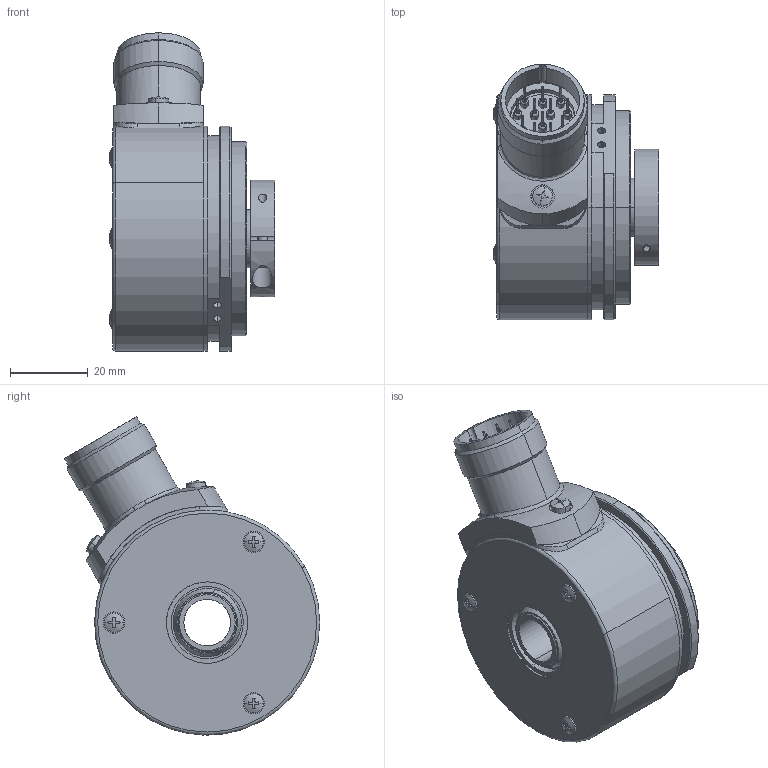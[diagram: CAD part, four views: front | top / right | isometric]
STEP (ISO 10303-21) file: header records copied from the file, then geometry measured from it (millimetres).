
FILE_DESCRIPTION (( 'STEP AP203' ), '1' );
FILE_NAME ('8.5824.18X2.XXXX.STEP', '2012-08-27T11:30:06', ( 'LauferA' ), ( 'Microsoft' ), 'SwSTEP 2.0', 'SolidWorks 2012', '' );
FILE_SCHEMA (( 'CONFIG_CONTROL_DESIGN' ));
Length unit declared in the file: millimetre
Products named in the file (1): 8.5824.18X2.XXXX
Bounding box: 42.58 x 65.81 x 82.01 mm (x, y, z)
Volume: 56269.7 mm3; surface area: 44869.6 mm2
Topology: 32 solids, 32 shells, 972 faces, 2199 edges, 1347 vertices
Faces by surface type: cylinder 434, plane 280, cone 164, torus 56, sphere 34, bspline 4
Entity records: 28901 total; most frequent: CARTESIAN_POINT 6528, DIRECTION 5089, ORIENTED_EDGE 4294, EDGE_CURVE 2147, AXIS2_PLACEMENT_3D 2099, VERTEX_POINT 1347, EDGE_LOOP 1144, CIRCLE 1130
